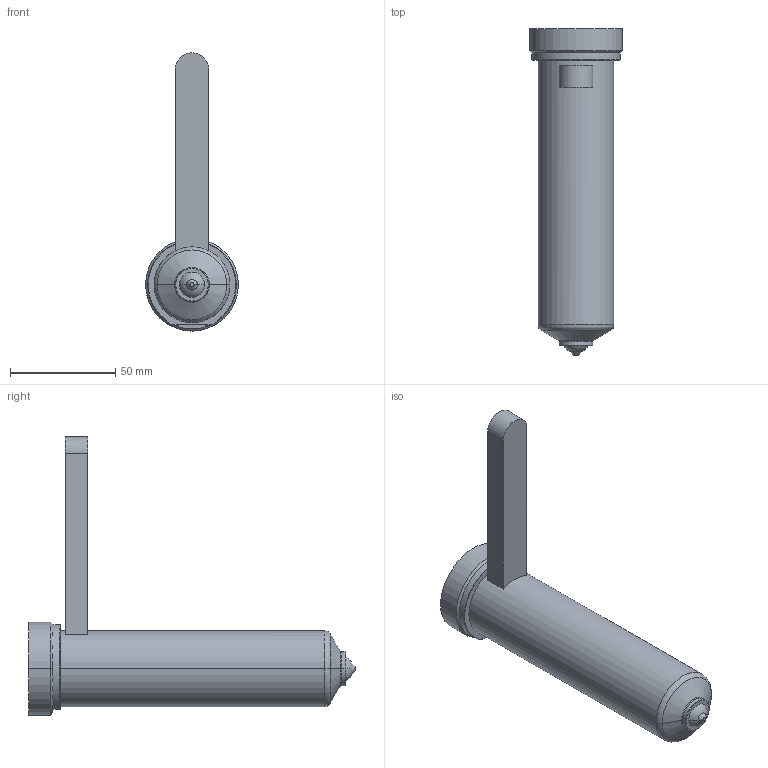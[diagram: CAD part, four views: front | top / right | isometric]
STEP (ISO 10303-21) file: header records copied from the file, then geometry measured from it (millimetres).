
FILE_DESCRIPTION((''),'2;1');
FILE_NAME('EO12_PG-BL_WR_140_COT','2024-02-19T11:15:10',('sundharh'),(''),'CREO PARAMETRIC BY PTC INC, 2023154','CREO PARAMETRIC BY PTC INC, 2023154','');
FILE_SCHEMA(('CONFIG_CONTROL_DESIGN'));
Length unit declared in the file: millimetre
Products named in the file (1): EO12_PG-BL_WR_140_COT
Bounding box: 44 x 155 x 132 mm (x, y, z)
Volume: 170843.4 mm3; surface area: 24433.4 mm2
Topology: 1 solids, 1 shells, 40 faces, 85 edges, 50 vertices
Faces by surface type: cylinder 13, plane 10, torus 9, cone 6, sphere 2
Entity records: 1185 total; most frequent: CARTESIAN_POINT 255, DIRECTION 209, ORIENTED_EDGE 170, AXIS2_PLACEMENT_3D 90, EDGE_CURVE 85, VERTEX_POINT 50, CIRCLE 50, EDGE_LOOP 43
